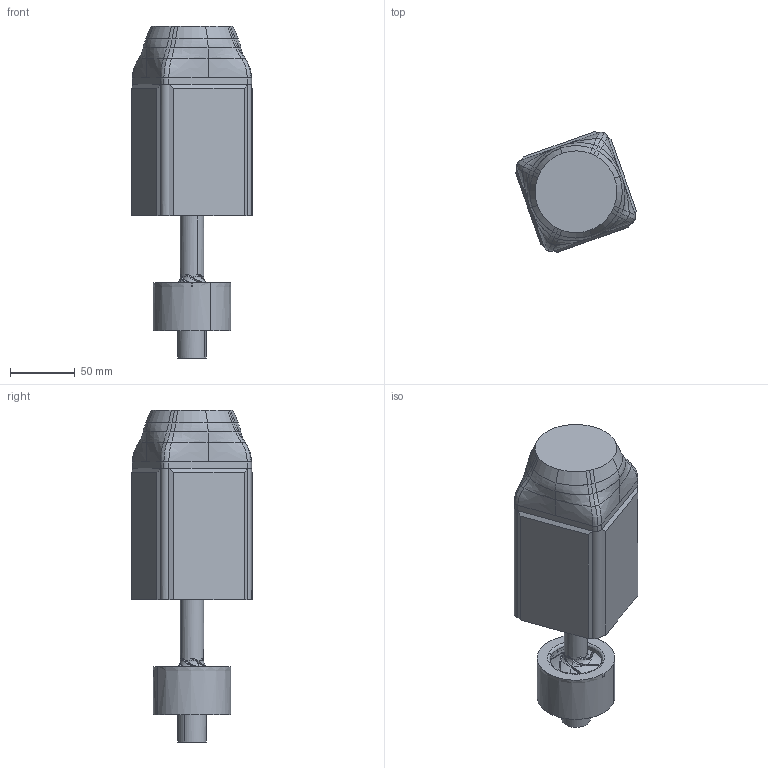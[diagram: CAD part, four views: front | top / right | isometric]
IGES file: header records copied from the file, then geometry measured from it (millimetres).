
Start section: 3D InterOp IGES (v. 2021 1.0.1), Spatial Corp. Copyright (c) 1999-2020.
Global section: file name: Assemblage_Full_v240711_volfluid.igs; native system: Spatial Corp.; preprocessor: 3D InterOp ACIS/IGES; author: Noname; organization: Noname; date: 20240711.184520; units: millimetre
Bounding box: 92.91 x 92.91 x 255.7 mm (x, y, z)
Surface area: 78864.9 mm2 (no closed solid volume)
Topology: 0 solids, 0 shells, 390 faces, 2768 edges, 2764 vertices
Faces by surface type: bspline 220, revolution 121, extrusion 49
